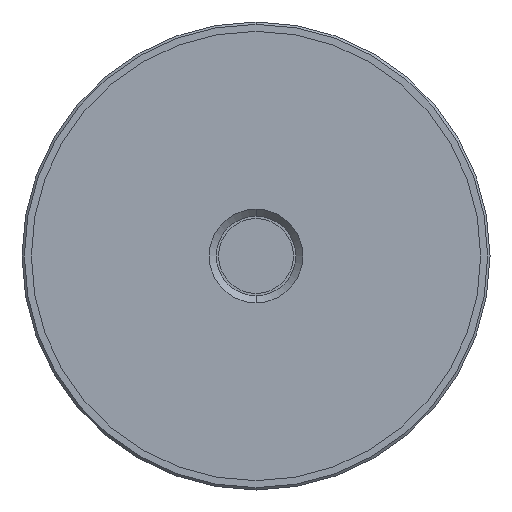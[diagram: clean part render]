
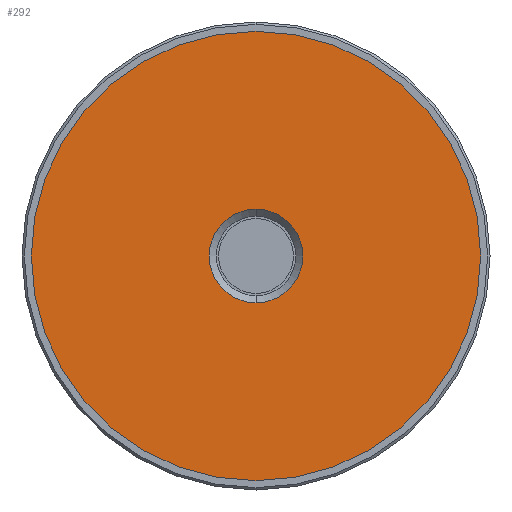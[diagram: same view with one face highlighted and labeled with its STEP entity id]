
A CAD part, front view. The second image highlights one B-rep face of the part: STEP entity #292.
In plain terms, the highlighted planar face has unit normal (0, -1, 0).
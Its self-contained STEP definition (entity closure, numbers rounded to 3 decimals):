
#63 = EDGE_CURVE ( 'NONE', #860, #930, #1109, .T. ) ;
#82 = CARTESIAN_POINT ( 'NONE',  ( 0., -1.5, 48. ) ) ;
#93 = CARTESIAN_POINT ( 'NONE',  ( 0., -1.5, 0. ) ) ;
#102 = DIRECTION ( 'NONE',  ( 0., 0., -1. ) ) ;
#116 = ORIENTED_EDGE ( 'NONE', *, *, #555, .F. ) ;
#124 = DIRECTION ( 'NONE',  ( 0., -1., 0. ) ) ;
#138 = DIRECTION ( 'NONE',  ( 0., 0., 1. ) ) ;
#152 = AXIS2_PLACEMENT_3D ( 'NONE', #1154, #678, #948 ) ;
#171 = AXIS2_PLACEMENT_3D ( 'NONE', #598, #124, #207 ) ;
#173 = VERTEX_POINT ( 'NONE', #471 ) ;
#207 = DIRECTION ( 'NONE',  ( 0., 0., -1. ) ) ;
#271 = EDGE_CURVE ( 'NONE', #173, #783, #487, .T. ) ;
#292 = ADVANCED_FACE ( 'NONE', ( #509, #768 ), #1179, .T. ) ;
#379 = ORIENTED_EDGE ( 'NONE', *, *, #271, .T. ) ;
#409 = CARTESIAN_POINT ( 'NONE',  ( 0., -1.5, 0. ) ) ;
#433 = ORIENTED_EDGE ( 'NONE', *, *, #1049, .T. ) ;
#471 = CARTESIAN_POINT ( 'NONE',  ( 0., -1.5, -10. ) ) ;
#478 = CARTESIAN_POINT ( 'NONE',  ( 0., -1.5, 10. ) ) ;
#487 = CIRCLE ( 'NONE', #897, 10. ) ;
#509 = FACE_BOUND ( 'NONE', #1051, .T. ) ;
#555 = EDGE_CURVE ( 'NONE', #930, #860, #713, .T. ) ;
#598 = CARTESIAN_POINT ( 'NONE',  ( 0., -1.5, 48. ) ) ;
#600 = DIRECTION ( 'NONE',  ( 0., 1., 0. ) ) ;
#678 = DIRECTION ( 'NONE',  ( 0., 1., 0. ) ) ;
#713 = CIRCLE ( 'NONE', #820, 48. ) ;
#768 = FACE_OUTER_BOUND ( 'NONE', #847, .T. ) ;
#771 = DIRECTION ( 'NONE',  ( 0., 1., 0. ) ) ;
#783 = VERTEX_POINT ( 'NONE', #478 ) ;
#820 = AXIS2_PLACEMENT_3D ( 'NONE', #1202, #909, #138 ) ;
#847 = EDGE_LOOP ( 'NONE', ( #116, #988 ) ) ;
#860 = VERTEX_POINT ( 'NONE', #1153 ) ;
#870 = CIRCLE ( 'NONE', #1060, 10. ) ;
#897 = AXIS2_PLACEMENT_3D ( 'NONE', #93, #771, #102 ) ;
#909 = DIRECTION ( 'NONE',  ( 0., 1., 0. ) ) ;
#930 = VERTEX_POINT ( 'NONE', #82 ) ;
#948 = DIRECTION ( 'NONE',  ( 0., 0., 1. ) ) ;
#988 = ORIENTED_EDGE ( 'NONE', *, *, #63, .F. ) ;
#1049 = EDGE_CURVE ( 'NONE', #783, #173, #870, .T. ) ;
#1051 = EDGE_LOOP ( 'NONE', ( #379, #433 ) ) ;
#1060 = AXIS2_PLACEMENT_3D ( 'NONE', #409, #600, #1080 ) ;
#1080 = DIRECTION ( 'NONE',  ( 0., 0., -1. ) ) ;
#1109 = CIRCLE ( 'NONE', #152, 48. ) ;
#1153 = CARTESIAN_POINT ( 'NONE',  ( 0., -1.5, -48. ) ) ;
#1154 = CARTESIAN_POINT ( 'NONE',  ( 0., -1.5, 0. ) ) ;
#1179 = PLANE ( 'NONE',  #171 ) ;
#1202 = CARTESIAN_POINT ( 'NONE',  ( 0., -1.5, 0. ) ) ;
